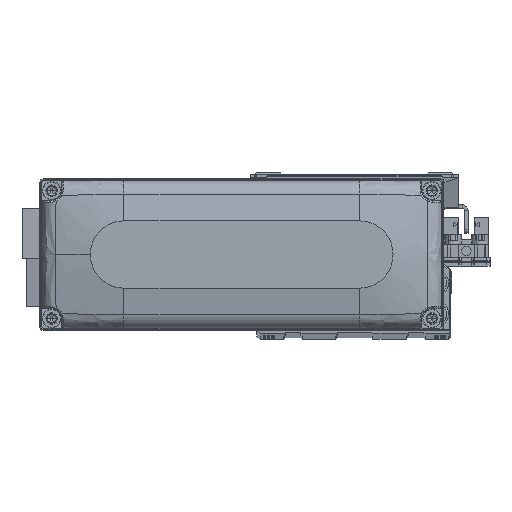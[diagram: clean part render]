
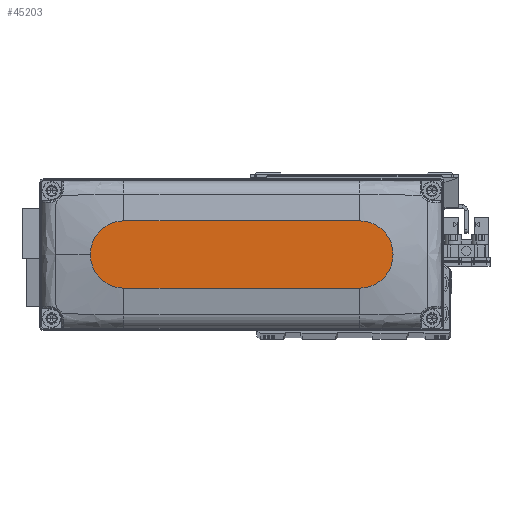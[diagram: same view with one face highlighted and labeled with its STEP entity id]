
A CAD part, top view. The second image highlights one B-rep face of the part: STEP entity #45203.
In plain terms, the highlighted planar face has unit normal (0, 0, 1).
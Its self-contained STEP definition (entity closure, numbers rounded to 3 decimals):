
#707 = CARTESIAN_POINT ( 'NONE',  ( -35., -10., 28. ) ) ;
#1008 = PLANE ( 'NONE',  #41325 ) ;
#2724 = CARTESIAN_POINT ( 'NONE',  ( -35., 10., 28. ) ) ;
#2878 = ORIENTED_EDGE ( 'NONE', *, *, #5331, .T. ) ;
#3203 = VERTEX_POINT ( 'NONE', #26631 ) ;
#3775 = VERTEX_POINT ( 'NONE', #42615 ) ;
#4096 = VERTEX_POINT ( 'NONE', #14106 ) ;
#5331 = EDGE_CURVE ( 'NONE', #3203, #4096, #6007, .T. ) ;
#6007 = CIRCLE ( 'NONE', #31662, 10. ) ;
#6466 = ORIENTED_EDGE ( 'NONE', *, *, #36459, .T. ) ;
#9400 = DIRECTION ( 'NONE',  ( 0., 0., 1. ) ) ;
#9411 = ORIENTED_EDGE ( 'NONE', *, *, #14731, .T. ) ;
#10225 = CARTESIAN_POINT ( 'NONE',  ( -35., 0., 28. ) ) ;
#10445 = CARTESIAN_POINT ( 'NONE',  ( 35., 10., 28. ) ) ;
#11993 = AXIS2_PLACEMENT_3D ( 'NONE', #40860, #9400, #23401 ) ;
#12280 = CARTESIAN_POINT ( 'NONE',  ( 35., -10., 28. ) ) ;
#12652 = ORIENTED_EDGE ( 'NONE', *, *, #37767, .T. ) ;
#14106 = CARTESIAN_POINT ( 'NONE',  ( -35., -10., 28. ) ) ;
#14711 = DIRECTION ( 'NONE',  ( 1., 0., 0. ) ) ;
#14731 = EDGE_CURVE ( 'NONE', #4096, #38517, #32161, .T. ) ;
#15016 = CARTESIAN_POINT ( 'NONE',  ( 0., 0., 28. ) ) ;
#15334 = CARTESIAN_POINT ( 'NONE',  ( 35., 0., 28. ) ) ;
#15572 = VECTOR ( 'NONE', #16733, 1000. ) ;
#16733 = DIRECTION ( 'NONE',  ( -1., 0., 0. ) ) ;
#20980 = EDGE_CURVE ( 'NONE', #38517, #3775, #25105, .T. ) ;
#23401 = DIRECTION ( 'NONE',  ( 1., 0., 0. ) ) ;
#24229 = DIRECTION ( 'NONE',  ( 0., 0., 1. ) ) ;
#25105 = CIRCLE ( 'NONE', #30983, 10. ) ;
#26631 = CARTESIAN_POINT ( 'NONE',  ( -35., 10., 28. ) ) ;
#28623 = EDGE_LOOP ( 'NONE', ( #6466, #2878, #9411, #40843, #12652 ) ) ;
#29013 = DIRECTION ( 'NONE',  ( 0., 0., 1. ) ) ;
#29325 = DIRECTION ( 'NONE',  ( 0., 0., 1. ) ) ;
#29674 = VERTEX_POINT ( 'NONE', #10445 ) ;
#30983 = AXIS2_PLACEMENT_3D ( 'NONE', #15334, #29325, #43341 ) ;
#31662 = AXIS2_PLACEMENT_3D ( 'NONE', #10225, #24229, #38246 ) ;
#31793 = CIRCLE ( 'NONE', #11993, 10. ) ;
#32161 = LINE ( 'NONE', #707, #37745 ) ;
#32463 = FACE_OUTER_BOUND ( 'NONE', #28623, .T. ) ;
#34175 = LINE ( 'NONE', #2724, #15572 ) ;
#36459 = EDGE_CURVE ( 'NONE', #29674, #3203, #34175, .T. ) ;
#37745 = VECTOR ( 'NONE', #14711, 1000. ) ;
#37767 = EDGE_CURVE ( 'NONE', #3775, #29674, #31793, .T. ) ;
#38246 = DIRECTION ( 'NONE',  ( 1., 0., 0. ) ) ;
#38517 = VERTEX_POINT ( 'NONE', #12280 ) ;
#40843 = ORIENTED_EDGE ( 'NONE', *, *, #20980, .T. ) ;
#40860 = CARTESIAN_POINT ( 'NONE',  ( 35., 0., 28. ) ) ;
#41325 = AXIS2_PLACEMENT_3D ( 'NONE', #15016, #29013, #43029 ) ;
#42615 = CARTESIAN_POINT ( 'NONE',  ( 45., 0., 28. ) ) ;
#43029 = DIRECTION ( 'NONE',  ( 1., 0., 0. ) ) ;
#43341 = DIRECTION ( 'NONE',  ( 1., 0., 0. ) ) ;
#45203 = ADVANCED_FACE ( 'NONE', ( #32463 ), #1008, .T. ) ;
